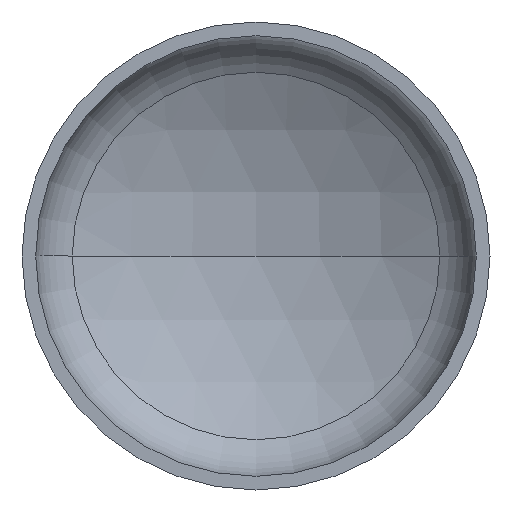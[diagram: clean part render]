
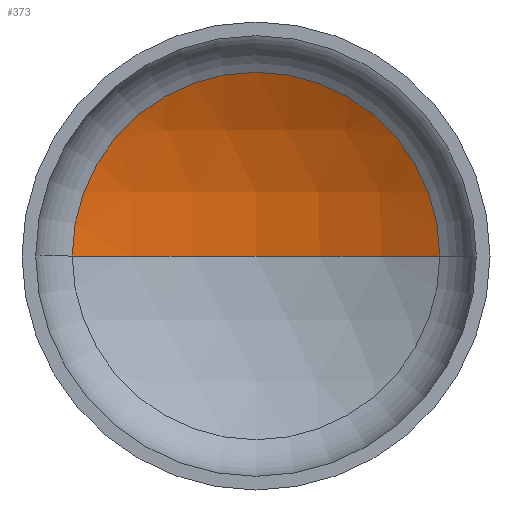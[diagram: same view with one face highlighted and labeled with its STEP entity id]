
A CAD part, front view. The second image highlights one B-rep face of the part: STEP entity #373.
In plain terms, the highlighted spherical face has radius 1200 mm.
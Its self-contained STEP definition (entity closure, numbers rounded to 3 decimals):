
#1 = SPHERICAL_SURFACE ( 'NONE', #168, 1200. ) ;
#5 = AXIS2_PLACEMENT_3D ( 'NONE', #216, #374, #244 ) ;
#11 = AXIS2_PLACEMENT_3D ( 'NONE', #309, #155, #330 ) ;
#40 = AXIS2_PLACEMENT_3D ( 'NONE', #405, #279, #92 ) ;
#45 = ORIENTED_EDGE ( 'NONE', *, *, #103, .T. ) ;
#46 = VERTEX_POINT ( 'NONE', #202 ) ;
#92 = DIRECTION ( 'NONE',  ( 1., 0., 0. ) ) ;
#93 = VERTEX_POINT ( 'NONE', #181 ) ;
#96 = VERTEX_POINT ( 'NONE', #260 ) ;
#103 = EDGE_CURVE ( 'NONE', #93, #96, #398, .T. ) ;
#122 = EDGE_LOOP ( 'NONE', ( #138, #255, #45 ) ) ;
#138 = ORIENTED_EDGE ( 'NONE', *, *, #358, .F. ) ;
#155 = DIRECTION ( 'NONE',  ( 0., 0., -1. ) ) ;
#168 = AXIS2_PLACEMENT_3D ( 'NONE', #394, #188, #310 ) ;
#173 = FACE_OUTER_BOUND ( 'NONE', #122, .T. ) ;
#181 = CARTESIAN_POINT ( 'NONE',  ( 588.866, 340.403, 0. ) ) ;
#188 = DIRECTION ( 'NONE',  ( 0., 0., -1. ) ) ;
#202 = CARTESIAN_POINT ( 'NONE',  ( 0., 494.823, 0. ) ) ;
#216 = CARTESIAN_POINT ( 'NONE',  ( 0., -705.177, 0. ) ) ;
#244 = DIRECTION ( 'NONE',  ( 1., 0., 0. ) ) ;
#251 = CIRCLE ( 'NONE', #5, 1200. ) ;
#255 = ORIENTED_EDGE ( 'NONE', *, *, #351, .T. ) ;
#258 = CIRCLE ( 'NONE', #11, 1200. ) ;
#260 = CARTESIAN_POINT ( 'NONE',  ( -588.866, 340.403, 0. ) ) ;
#279 = DIRECTION ( 'NONE',  ( 0., -1., 0. ) ) ;
#309 = CARTESIAN_POINT ( 'NONE',  ( 0., -705.177, 0. ) ) ;
#310 = DIRECTION ( 'NONE',  ( -1., 0., 0. ) ) ;
#330 = DIRECTION ( 'NONE',  ( -1., 0., 0. ) ) ;
#351 = EDGE_CURVE ( 'NONE', #46, #93, #258, .T. ) ;
#358 = EDGE_CURVE ( 'NONE', #46, #96, #251, .T. ) ;
#373 = ADVANCED_FACE ( 'NONE', ( #173 ), #1, .F. ) ;
#374 = DIRECTION ( 'NONE',  ( 0., 0., 1. ) ) ;
#394 = CARTESIAN_POINT ( 'NONE',  ( 0., -705.177, 0. ) ) ;
#398 = CIRCLE ( 'NONE', #40, 588.866 ) ;
#405 = CARTESIAN_POINT ( 'NONE',  ( 0., 340.403, 0. ) ) ;
